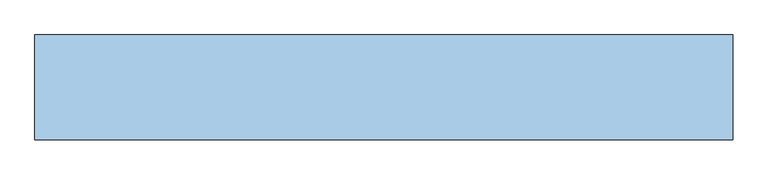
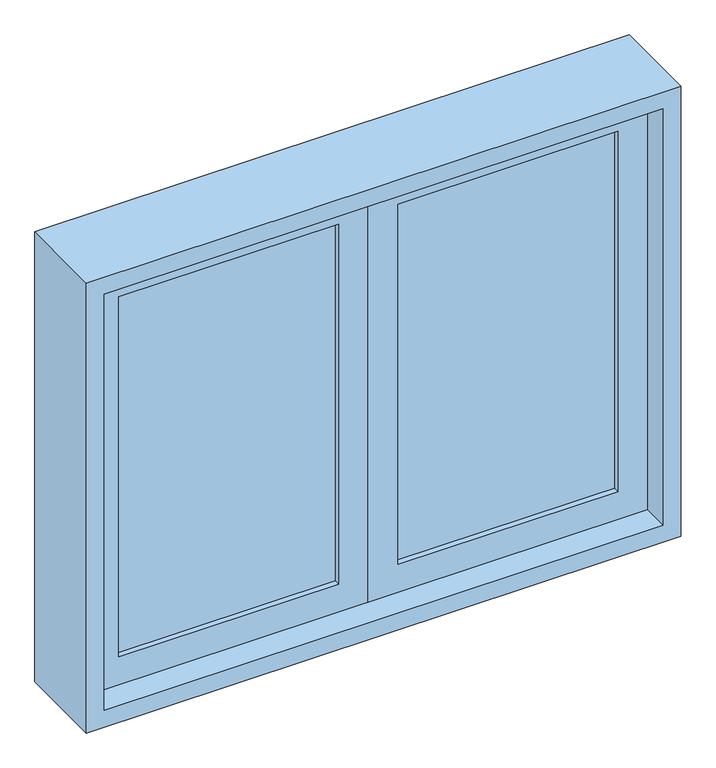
"""IFC4 building model written with IfcOpenShell, lengths in millimetres: window geometry, Janela Abrir- 2 folhas-FLA.GLEOKrfa : 60x50 h=1.60."""

from ifc_helpers import new_model, si_unit, frame, origin, place, context, project, spatial, polyline, outline, extrude, source, transform, mapped, element, save


def window_2c990719(model_context):
    return source(origin(), model_context, "Body", "SweptSolid", [
        extrude(outline(polyline([(1000.0, -500.0), (1000.0, 500.0), (1800.0, 500.0), (1800.0, -500.0), (1000.0, -500.0)]), holes=[polyline([(1770.0, -470.0), (1770.0, 470.0), (1030.0, 470.0), (1030.0, -470.0), (1770.0, -470.0)])]), frame((0.0, -75.0, 0.0), z_axis=(0.0, 1.0, 0.0), x_axis=(0.0, 0.0, 1.0)), (0.0, 0.0, 1.0), 150.0),
        extrude(outline(polyline([(-50.0, -20.0), (-420.0, -20.0), (-420.0, -10.0), (-50.0, -10.0), (-50.0, -20.0)])), frame((0.0, 0.0, 1080.0), z_axis=(0.0, 0.0, 1.0), x_axis=(1.0, 0.0, 0.0)), (0.0, 0.0, 1.0), 640.0),
        extrude(outline(polyline([(420.0, -20.0), (50.0, -20.0), (50.0, -10.0), (420.0, -10.0), (420.0, -20.0)])), frame((0.0, 0.0, 1080.0), z_axis=(0.0, 0.0, 1.0), x_axis=(1.0, 0.0, 0.0)), (0.0, 0.0, 1.0), 640.0),
        extrude(outline(polyline([(1770.0, 0.0), (1030.0, 0.0), (1030.0, 470.0), (1770.0, 470.0), (1770.0, 0.0)]), holes=[polyline([(1720.0, 50.0), (1720.0, 420.0), (1080.0, 420.0), (1080.0, 50.0), (1720.0, 50.0)])]), frame((0.0, -30.0, 0.0), z_axis=(0.0, 1.0, 0.0), x_axis=(0.0, 0.0, 1.0)), (0.0, 0.0, 1.0), 30.0),
        extrude(outline(polyline([(1770.0, -470.0), (1030.0, -470.0), (1030.0, 0.0), (1770.0, 0.0), (1770.0, -470.0)]), holes=[polyline([(1720.0, -420.0), (1720.0, -50.0), (1080.0, -50.0), (1080.0, -420.0), (1720.0, -420.0)])]), frame((0.0, -30.0, 0.0), z_axis=(0.0, 1.0, 0.0), x_axis=(0.0, 0.0, 1.0)), (0.0, 0.0, 1.0), 30.0),
    ])


if __name__ == "__main__":
    model = new_model("IFC4")
    model_context = context("Model", 3, world=origin())
    ifc_project = project(units=[si_unit("LENGTHUNIT", "METRE", prefix="MILLI")], contexts=[model_context])
    site = spatial("IfcSite", under=ifc_project)
    building = spatial("IfcBuilding", under=site)
    placement = place(None, origin())
    window_shape = window_2c990719(model_context)
    element("IfcWindow", 1, ObjectType="Janela Abrir- 2 folhas-FLA.GLEOKrfa : 60x50 h=1.60", at=placement, inside=building, context=model_context, shape_type="MappedRepresentation", body=[
        mapped(window_shape, transform((0.0, 0.0, 0.0), x_axis=(1.0, 0.0, 0.0), y_axis=(0.0, 1.0, 0.0), z_axis=(0.0, 0.0, 1.0))),
    ])
    save(model, "model.ifc")
